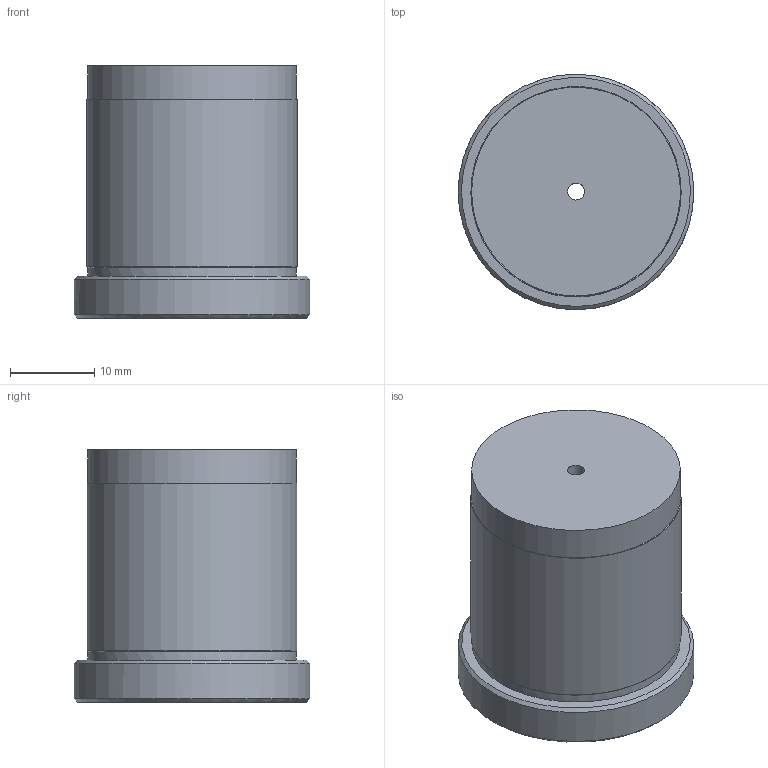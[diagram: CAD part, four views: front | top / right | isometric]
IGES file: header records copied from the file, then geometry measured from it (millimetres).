
Start section: C
Global section: file name: MCPBSC250530.igs; native system: By Siemens PLM Incorporated; preprocessor: XPlus GENERIC/IGES 18.0.17; author: Author; organization: Title; date: 20240724.111238; units: millimetre
Bounding box: 28 x 28 x 30 mm (x, y, z)
Volume: 9612.4 mm3; surface area: 4969.8 mm2
Topology: 1 solids, 1 shells, 283 faces, 735 edges, 489 vertices
Faces by surface type: bspline 283
